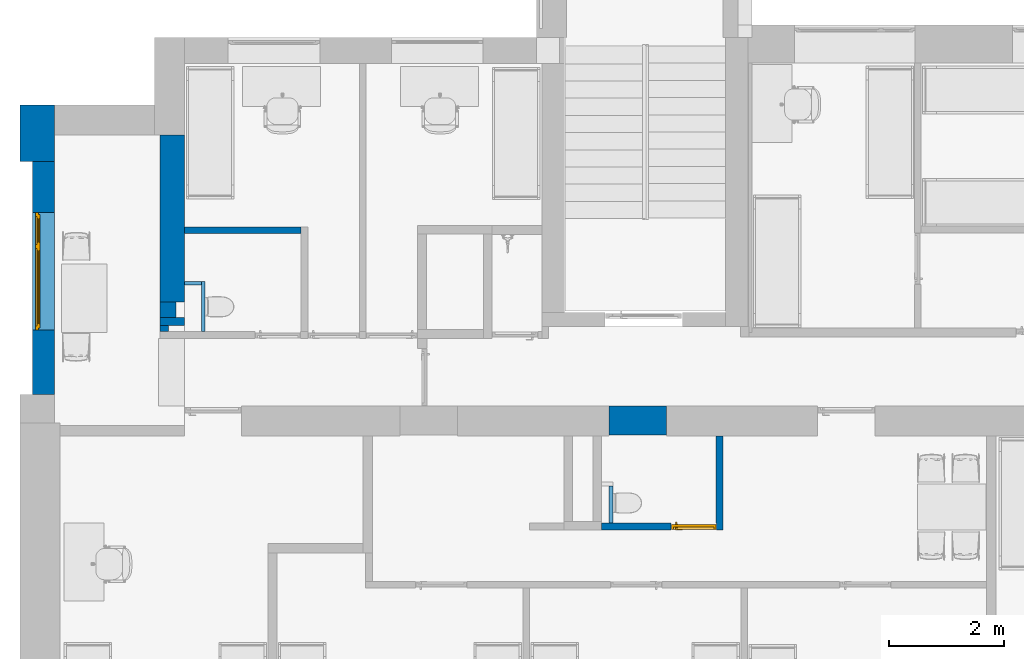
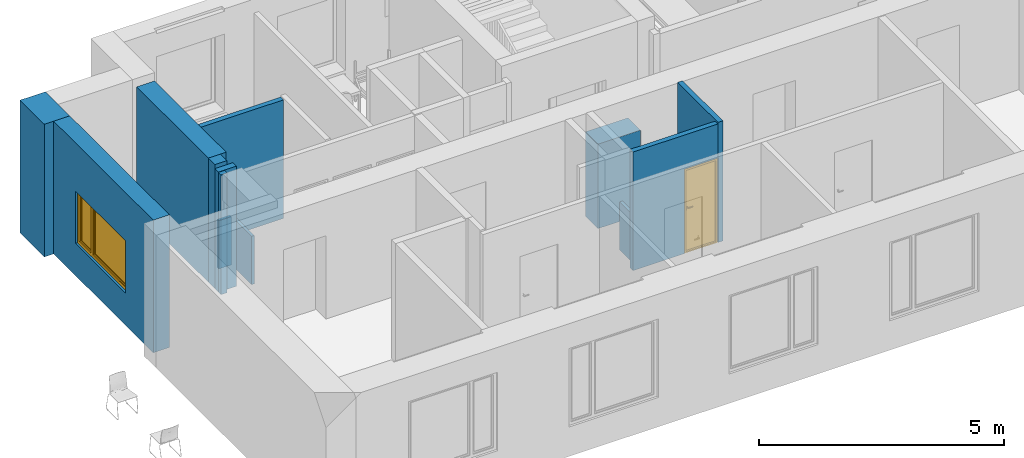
# One storey, part 4 of 48: 13 walls, 1 door, 1 window, 3 openings.
"""IFC2X3 building model written with IfcOpenShell, lengths in millimetres."""

from ifc_helpers import new_model, entity, si_unit, converted_unit, derived_unit, direction, frame, frame_2d, origin, place, context, subcontext, project, spatial, rectangle, extrude, faceted_brep, source, transform, mapped, material, material_list, layer, layer_set, layer_usage, type_object, type_shapes, element, fill, save


model = new_model("IFC2X3")

# Units and contexts
model_context = context("Model", 3, precision=0.01, world=origin(), true_north=direction((6.12303176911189e-17, 1.0)))
body_context = subcontext(model_context, "Body", "Model", "MODEL_VIEW")
ifc_project = project(units=[si_unit("LENGTHUNIT", "METRE", prefix="MILLI"), si_unit("AREAUNIT", "SQUARE_METRE"), si_unit("VOLUMEUNIT", "CUBIC_METRE"), converted_unit("PLANEANGLEUNIT", "DEGREE", entity("IfcRatioMeasure", 0.0174532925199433), si_unit("PLANEANGLEUNIT", "RADIAN"), dimensions=[0, 0, 0, 0, 0, 0, 0]), si_unit("MASSUNIT", "GRAM", prefix="KILO"), derived_unit("MASSDENSITYUNIT", [(si_unit("MASSUNIT", "GRAM", prefix="KILO"), 1), (si_unit("LENGTHUNIT", "METRE"), -3)]), si_unit("TIMEUNIT", "SECOND"), si_unit("FREQUENCYUNIT", "HERTZ"), si_unit("THERMODYNAMICTEMPERATUREUNIT", "DEGREE_CELSIUS"), derived_unit("THERMALTRANSMITTANCEUNIT", [(si_unit("MASSUNIT", "GRAM", prefix="KILO"), 1), (si_unit("THERMODYNAMICTEMPERATUREUNIT", "KELVIN"), -1), (si_unit("TIMEUNIT", "SECOND"), -3)]), derived_unit("VOLUMETRICFLOWRATEUNIT", [(si_unit("LENGTHUNIT", "METRE"), 3), (si_unit("TIMEUNIT", "SECOND"), -1)]), si_unit("ELECTRICCURRENTUNIT", "AMPERE"), si_unit("ELECTRICVOLTAGEUNIT", "VOLT"), si_unit("POWERUNIT", "WATT"), si_unit("FORCEUNIT", "NEWTON", prefix="KILO"), si_unit("ILLUMINANCEUNIT", "LUX"), si_unit("LUMINOUSFLUXUNIT", "LUMEN"), si_unit("LUMINOUSINTENSITYUNIT", "CANDELA"), derived_unit("USERDEFINED", [(si_unit("MASSUNIT", "GRAM", prefix="KILO"), -1), (si_unit("LENGTHUNIT", "METRE"), -2), (si_unit("TIMEUNIT", "SECOND"), 3), (si_unit("LUMINOUSFLUXUNIT", "LUMEN"), 1)]), derived_unit("LINEARVELOCITYUNIT", [(si_unit("LENGTHUNIT", "METRE"), 1), (si_unit("TIMEUNIT", "SECOND"), -1)]), si_unit("PRESSUREUNIT", "PASCAL"), derived_unit("USERDEFINED", [(si_unit("LENGTHUNIT", "METRE"), -2), (si_unit("MASSUNIT", "GRAM", prefix="KILO"), 1), (si_unit("TIMEUNIT", "SECOND"), -2)]), derived_unit("LINEARFORCEUNIT", [(si_unit("MASSUNIT", "GRAM", prefix="KILO"), 1), (si_unit("LENGTHUNIT", "METRE"), 1), (si_unit("TIMEUNIT", "SECOND"), -2), (si_unit("LENGTHUNIT", "METRE"), -1)]), derived_unit("PLANARFORCEUNIT", [(si_unit("MASSUNIT", "GRAM", prefix="KILO"), 1), (si_unit("LENGTHUNIT", "METRE"), 1), (si_unit("TIMEUNIT", "SECOND"), -2), (si_unit("LENGTHUNIT", "METRE"), -2)])], contexts=[model_context])

# Site, building, storey
site_placement = place(None, origin())
site = spatial("IfcSite", under=ifc_project, at=site_placement, Name="Default", CompositionType="ELEMENT")
building_placement = place(site_placement, origin())
building = spatial("IfcBuilding", under=site, at=building_placement, Name="SMA ARH", CompositionType="ELEMENT")
storey_placement = place(building_placement, frame((0.0, 0.0, 3300.0)))
storey = spatial("IfcBuildingStorey", under=building, at=storey_placement, Name="2 Korrus", CompositionType="ELEMENT", Elevation=3299.99999999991)

# Walls
ifc_material_1 = material(Name="_ol.olev sein")
ifc_layer_1 = layer(ifc_material_1, 420.0)
ifc_layer_set_1 = layer_set([ifc_layer_1], Name="Basic Wall:Generic - 420mm")
ifc_layer_usage_1 = layer_usage(ifc_layer_set_1, "AXIS2", "NEGATIVE", 210.0)
wall_type_1 = type_object("IfcWallType", Name="Basic Wall:Generic - 420mm", PredefinedType="STANDARD", material=ifc_layer_set_1)
wall_1_placement = place(storey_placement, frame((1955.0, 11250.0, 0.0), z_axis=(0.0, 0.0, 1.0), x_axis=(0.0, -1.0, 0.0)))
element("IfcWallStandardCase", 1, at=wall_1_placement, inside=storey, type_object=wall_type_1, material=ifc_layer_usage_1, Name="Basic Wall:Generic - 420mm", ObjectType="Basic Wall:Generic - 420mm", context=body_context, shape_type="SweptSolid", body=[
    extrude(rectangle(XDim=2919.99999999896, YDim=420.0, at=frame_2d((1459.99999999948, 5.6843418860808e-14), x_axis=(-1.0, 0.0))), origin(), (0.0, 0.0, 1.0), 3089.99999999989),
])
ifc_layer_usage_2 = layer_usage(ifc_layer_set_1, "AXIS2", "NEGATIVE", 210.0)
wall_2_placement = place(storey_placement, frame((1955.0, 8061.44692735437, 0.0), z_axis=(0.0, 0.0, 1.0), x_axis=(0.0, -1.0, 0.0)))
element("IfcWallStandardCase", 2, at=wall_2_placement, inside=storey, type_object=wall_type_1, material=ifc_layer_usage_2, Name="Basic Wall:Generic - 420mm", ObjectType="Basic Wall:Generic - 420mm", context=body_context, shape_type="SweptSolid", body=[
    extrude(rectangle(XDim=141.571936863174, YDim=420.0, at=frame_2d((70.7859684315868, -2.8421709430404e-14), x_axis=(-1.0, 0.0))), origin(), (0.0, 0.0, 1.0), 2989.99999999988),
])
ifc_layer_2 = layer(ifc_material_1, 280.0)
ifc_layer_set_2 = layer_set([ifc_layer_2], Name="Basic Wall:Generic - 280mm")
ifc_layer_usage_3 = layer_usage(ifc_layer_set_2, "AXIS2", "NEGATIVE", 140.0)
wall_type_2 = type_object("IfcWallType", Name="Basic Wall:Generic - 280mm", PredefinedType="STANDARD", material=ifc_layer_set_2)
wall_3_placement = place(storey_placement, frame((1885.0, 8330.0, 0.0), z_axis=(0.0, 0.0, 1.0), x_axis=(0.0, -1.0, 0.0)))
element("IfcWallStandardCase", 3, at=wall_3_placement, inside=storey, type_object=wall_type_2, material=ifc_layer_usage_3, Name="Basic Wall:Generic - 280mm", ObjectType="Basic Wall:Generic - 280mm", context=body_context, shape_type="SweptSolid", body=[
    extrude(rectangle(XDim=268.55307264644, YDim=280.0, at=frame_2d((134.27653632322, -4.2632564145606e-14), x_axis=(-1.0, 0.0))), origin(), (0.0, 0.0, 1.0), 3089.99999999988),
])
ifc_layer_3 = layer(ifc_material_1, 600.0)
ifc_layer_set_3 = layer_set([ifc_layer_3], Name="Basic Wall:Generic - 600mm")
ifc_layer_usage_4 = layer_usage(ifc_layer_set_3, "AXIS2", "NEGATIVE", 300.0)
wall_type_3 = type_object("IfcWallType", Name="Basic Wall:Generic - 600mm", PredefinedType="STANDARD", material=ifc_layer_set_3)
wall_4_placement = place(storey_placement, frame((-400.0, 10780.0, 0.0), z_axis=(0.0, 0.0, 1.0), x_axis=(0.0, 1.0, 0.0)))
element("IfcWallStandardCase", 4, at=wall_4_placement, inside=storey, type_object=wall_type_3, material=ifc_layer_usage_4, Name="Basic Wall:Generic - 600mm", ObjectType="Basic Wall:Generic - 600mm", context=body_context, shape_type="SweptSolid", body=[
    extrude(rectangle(XDim=990.000000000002, YDim=600.0, at=frame_2d((495.000000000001, 2.8421709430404e-14), x_axis=(-1.0, 0.0))), origin(), (0.0, 0.0, 1.0), 3299.99999999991),
])

# Wall, opening, window
ifc_layer_4 = layer(ifc_material_1, 380.0)
ifc_layer_set_4 = layer_set([ifc_layer_4], Name="Basic Wall:Generic - 380mm")
ifc_layer_usage_5 = layer_usage(ifc_layer_set_4, "AXIS2", "NEGATIVE", 190.0)
wall_type_4 = type_object("IfcWallType", Name="Basic Wall:Generic - 380mm", PredefinedType="STANDARD", material=ifc_layer_set_4)
wall_5_placement = place(storey_placement, frame((-290.0, 6720.0, 0.0), z_axis=(0.0, 0.0, 1.0), x_axis=(0.0, 1.0, 0.0)))
wall_5 = element("IfcWallStandardCase", 5, at=wall_5_placement, inside=storey, type_object=wall_type_4, material=ifc_layer_usage_5, Name="Basic Wall:Generic - 380mm", ObjectType="Basic Wall:Generic - 380mm", context=body_context, shape_type="SweptSolid", body=[
    extrude(rectangle(XDim=4060.0, YDim=380.0, at=frame_2d((2030.0, 0.0), x_axis=(-1.0, 0.0))), origin(), (0.0, 0.0, 1.0), 3299.99999999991),
])
opening_1_placement = place(wall_5_placement, frame((1125.0, -190.0, 800.0)))
opening_1 = element("IfcOpeningElement", 6, at=opening_1_placement, cuts=wall_5, Name="SMA_W2, 2-jaotus:A-00 - 2100x1300:1", ObjectType="Opening", context=body_context, shape_type="SweptSolid", body=[
    extrude(rectangle(XDim=1300.0, YDim=2050.0, at=frame_2d((650.0, 1025.0), x_axis=(1.0, 0.0))), frame((0.0, 0.0, 0.0), z_axis=(0.0, 1.0, 0.0), x_axis=(0.0, 0.0, 1.0)), (0.0, 0.0, 1.0), 380.0),
])
ifc_material_2 = material(Name="Glass")
ifc_material_3 = material(Name="Hall")
ifc_material_list_1 = material_list([ifc_material_2, ifc_material_3])
ifc_material_4 = material(Name="<Unnamed>")
ifc_material_list_2 = material_list([ifc_material_2, ifc_material_4, ifc_material_3, ifc_material_3, ifc_material_4])
window_style = type_object("IfcWindowStyle", Name="SMA_W2, 2-jaotus:A-00 - 2100x1300", ConstructionType="NOTDEFINED", OperationType="NOTDEFINED", ParameterTakesPrecedence=False, Sizeable=False, material=ifc_material_list_2)
shared_shape_1 = source(origin(), body_context, "Body", "Brep", [
    faceted_brep([(105.0, 270.0, 1195.0), (105.0, 270.0, 105.0), (1390.0, 270.0, 105.0), (1390.0, 270.0, 1195.0), (105.0, 290.0, 1195.0), (105.0, 290.0, 105.0), (1390.0, 290.0, 105.0), (1390.0, 290.0, 1195.0)], [[[0, 1, 2, 3]], [[1, 0, 4, 5]], [[2, 1, 5, 6]], [[3, 2, 6, 7]], [[4, 7, 6, 5]], [[0, 3, 7, 4]]]),
    faceted_brep([(1530.0, 270.0, 105.0), (1945.0, 270.0, 105.0), (1945.0, 270.0, 1195.0), (1530.0, 270.0, 1195.0), (1530.0, 290.0, 105.0), (1945.0, 290.0, 105.0), (1945.0, 290.0, 1195.0), (1530.0, 290.0, 1195.0)], [[[0, 1, 2, 3]], [[1, 0, 4, 5]], [[2, 1, 5, 6]], [[0, 3, 7, 4]], [[4, 7, 6, 5]], [[3, 2, 6, 7]]]),
    faceted_brep([(35.0, 255.0, 35.0), (1460.0, 255.0, 35.0), (1460.0, 255.0, 1265.0), (35.0, 255.0, 1265.0), (1390.0, 255.0, 1195.0), (1390.0, 255.0, 105.0), (105.0, 255.0, 105.0), (105.0, 255.0, 1195.0), (35.0, 305.0, 35.0), (1460.0, 305.0, 35.0), (1460.0, 305.0, 1265.0), (35.0, 305.0, 1265.0), (1390.0, 305.0, 1195.0), (1390.0, 305.0, 105.0), (105.0, 305.0, 105.0), (105.0, 305.0, 1195.0)], [[[0, 1, 2, 3], [4, 5, 6, 7]], [[1, 0, 8, 9]], [[2, 1, 9, 10]], [[0, 3, 11, 8]], [[5, 4, 12, 13]], [[6, 5, 13, 14]], [[7, 6, 14, 15]], [[8, 11, 10, 9], [12, 15, 14, 13]], [[3, 2, 10, 11]], [[4, 7, 15, 12]]]),
    faceted_brep([(1460.0, 255.0, 35.0), (2015.0, 255.0, 35.0), (2015.0, 255.0, 1265.0), (1460.0, 255.0, 1265.0), (1945.0, 255.0, 1195.0), (1945.0, 255.0, 105.0), (1530.0, 255.0, 105.0), (1530.0, 255.0, 1195.0), (1460.0, 305.0, 35.0), (2015.0, 305.0, 35.0), (2015.0, 305.0, 1265.0), (1460.0, 305.0, 1265.0), (1945.0, 305.0, 1195.0), (1945.0, 305.0, 105.0), (1530.0, 305.0, 105.0), (1530.0, 305.0, 1195.0)], [[[0, 1, 2, 3], [4, 5, 6, 7]], [[1, 0, 8, 9]], [[2, 1, 9, 10]], [[0, 3, 11, 8]], [[5, 4, 12, 13]], [[6, 5, 13, 14]], [[7, 6, 14, 15]], [[8, 11, 10, 9], [12, 15, 14, 13]], [[3, 2, 10, 11]], [[4, 7, 15, 12]]]),
    faceted_brep([(0.0, 280.0, 0.0), (2050.0, 280.0, 0.0), (2050.0, 280.0, 1300.0), (0.0, 280.0, 1300.0), (2015.0, 280.0, 35.0), (1460.0, 280.0, 35.0), (1460.0, 280.0, 1265.0), (2015.0, 280.0, 1265.0), (70.0, 280.0, 1230.0), (1425.0, 280.0, 1230.0), (1425.0, 280.0, 70.0), (70.0, 280.0, 70.0), (0.0, 330.0, 0.0), (2050.0, 330.0, 0.0), (2050.0, 330.0, 1300.0), (0.0, 330.0, 1300.0), (1425.0, 330.0, 1230.0), (1425.0, 330.0, 70.0), (70.0, 330.0, 70.0), (70.0, 330.0, 1230.0), (2015.0, 305.0, 35.0), (1460.0, 305.0, 35.0), (1460.0, 305.0, 1265.0), (2015.0, 305.0, 1265.0), (1495.0, 330.0, 1230.0), (1495.0, 330.0, 70.0), (1980.0, 330.0, 70.0), (1980.0, 330.0, 1230.0), (1495.0, 305.0, 1230.0), (1495.0, 305.0, 70.0), (1980.0, 305.0, 70.0), (1980.0, 305.0, 1230.0)], [[[0, 1, 2, 3], [4, 5, 6, 7], [8, 9, 10, 11]], [[1, 0, 12, 13]], [[2, 1, 13, 14]], [[0, 3, 15, 12]], [[10, 9, 16, 17]], [[11, 10, 17, 18]], [[8, 11, 18, 19]], [[20, 21, 5, 4]], [[21, 22, 6, 5]], [[23, 20, 4, 7]], [[12, 15, 14, 13], [19, 18, 17, 16], [24, 25, 26, 27]], [[25, 24, 28, 29]], [[26, 25, 29, 30]], [[27, 26, 30, 31]], [[21, 20, 23, 22], [28, 31, 30, 29]], [[3, 2, 14, 15]], [[24, 27, 31, 28]], [[9, 8, 19, 16]], [[22, 23, 7, 6]]]),
])
type_shapes(window_style, [shared_shape_1])
window_placement = place(opening_1_placement, origin())
window = element("IfcWindow", 7, at=window_placement, inside=storey, type_object=window_style, material=ifc_material_list_1, Name="SMA_W2, 2-jaotus:A-00 - 2100x1300", ObjectType="SMA_W2, 2-jaotus:A-00 - 2100x1300", OverallHeight=1300.0, OverallWidth=2050.0, context=body_context, shape_type="MappedRepresentation", body=[
    mapped(shared_shape_1, transform((0.0, 0.0, 0.0), scale=1.0)),
])
fill(opening_1, window)

# Wall
ifc_material_5 = material(Name="EST. Ehitusplaat. Kipsplaat")
ifc_layer_5 = layer(ifc_material_5, 12.5)
ifc_layer_6 = layer(ifc_material_5, 12.5)
ifc_material_6 = material(Name="EST. Soojustus. Mineraalvill. Default")
ifc_layer_7 = layer(ifc_material_6, 66.0)
ifc_layer_8 = layer(ifc_material_5, 12.5)
ifc_layer_9 = layer(ifc_material_5, 12.5)
ifc_layer_set_5 = layer_set([ifc_layer_5, ifc_layer_6, ifc_layer_7, ifc_layer_8, ifc_layer_9], Name="Basic Wall:SS-05_Kips, 66mm metallkarkass")
ifc_layer_usage_6 = layer_usage(ifc_layer_set_5, "AXIS2", "NEGATIVE", 58.0)
wall_type_5 = type_object("IfcWallType", Name="Basic Wall:SS-05_Kips, 66mm metallkarkass", PredefinedType="STANDARD", material=ifc_layer_set_5)
wall_6_placement = place(storey_placement, frame((2165.0, 9585.50000000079, 0.0)))
element("IfcWallStandardCase", 8, at=wall_6_placement, inside=storey, type_object=wall_type_5, material=ifc_layer_usage_6, Name="Basic Wall:SS-05_Kips, 66mm metallkarkass", ObjectType="Basic Wall:SS-05_Kips, 66mm metallkarkass", context=body_context, shape_type="SweptSolid", body=[
    extrude(rectangle(XDim=2038.32130046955, YDim=116.0, at=frame_2d((1019.16065023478, -6.3948846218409e-14), x_axis=(-1.0, 0.0))), origin(), (0.0, 0.0, 1.0), 2949.99999999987),
])

# Wall, opening, door
ifc_layer_usage_7 = layer_usage(ifc_layer_set_5, "AXIS2", "NEGATIVE", 58.0)
wall_7_placement = place(storey_placement, frame((9440.0, 4418.0, 0.0)))
wall_7 = element("IfcWallStandardCase", 9, at=wall_7_placement, inside=storey, type_object=wall_type_5, material=ifc_layer_usage_7, Name="Basic Wall:SS-05_Kips, 66mm metallkarkass", ObjectType="Basic Wall:SS-05_Kips, 66mm metallkarkass", context=body_context, shape_type="SweptSolid", body=[
    extrude(rectangle(XDim=2002.00000000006, YDim=116.0, at=frame_2d((1001.00000000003, 9.2370555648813e-14), x_axis=(-1.0, 0.0))), origin(), (0.0, 0.0, 1.0), 2949.99999999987),
])
opening_2_placement = place(wall_7_placement, frame((1210.0, -58.0, 0.0)))
opening_2 = element("IfcOpeningElement", 10, at=opening_2_placement, cuts=wall_7, Name="SMA_D01, 1-poolne:SU-P-06 - 800x2100 DUŠŠ:1", ObjectType="Opening", context=body_context, shape_type="SweptSolid", body=[
    extrude(rectangle(XDim=2099.99999999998, YDim=800.0, at=frame_2d((1049.99999999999, 400.0), x_axis=(1.0, 0.0))), frame((0.0, 0.0, 0.0), z_axis=(0.0, 1.0, 0.0), x_axis=(0.0, 0.0, 1.0)), (0.0, 0.0, 1.0), 116.0),
])
ifc_material_7 = material(Name="EST. Metall. Alumiinium. Värvitud. RAL7023 (Concrete grey)")
ifc_material_8 = material(Name="EST. Klaas. 3x. Default")
ifc_material_list_3 = material_list([ifc_material_7, ifc_material_8, ifc_material_4, ifc_material_4, ifc_material_7, ifc_material_4, ifc_material_7])
door_style = type_object("IfcDoorStyle", Name="SMA_D01, 1-poolne:SU-P-06 - 800x2100 DUŠŠ", ConstructionType="NOTDEFINED", OperationType="NOTDEFINED", ParameterTakesPrecedence=False, Sizeable=False, material=ifc_material_list_3)
shared_shape_2 = source(origin(), body_context, "Body", "Brep", [
    faceted_brep([(110.0, 6.0, 1112.5), (110.0, 44.0, 1112.5), (85.0, 44.0, 1112.5), (85.0, 1.0, 1112.5), (205.0, 1.0, 1112.5), (205.0, 6.0, 1112.5), (110.0, 6.0, 1087.5), (205.0, 6.0, 1087.5), (205.0, 1.0, 1087.5), (85.0, 1.0, 1087.5), (85.0, 44.0, 1087.5), (110.0, 44.0, 1087.5)], [[[0, 1, 2, 3, 4, 5]], [[6, 7, 8, 9, 10, 11]], [[1, 0, 6, 11]], [[2, 1, 11, 10]], [[3, 2, 10, 9]], [[4, 3, 9, 8]], [[5, 4, 8, 7]], [[0, 5, 7, 6]]]),
    faceted_brep([(122.5, 44.0, 1137.5), (122.5, 46.0, 1137.5), (72.4999999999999, 46.0, 1137.5), (72.4999999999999, 44.0, 1137.5), (122.5, 44.0, 1017.5), (72.4999999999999, 44.0, 1017.5), (72.4999999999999, 46.0, 1017.5), (122.5, 46.0, 1017.5)], [[[0, 1, 2, 3]], [[4, 5, 6, 7]], [[1, 0, 4, 7]], [[2, 1, 7, 6]], [[3, 2, 6, 5]], [[0, 3, 5, 4]]]),
    faceted_brep([(110.0, 136.0, 1112.5), (205.0, 136.0, 1112.5), (205.0, 141.0, 1112.5), (85.0, 141.0, 1112.5), (85.0, 98.0, 1112.5), (110.0, 98.0, 1112.5), (110.0, 136.0, 1087.5), (110.0, 98.0, 1087.5), (85.0, 98.0, 1087.5), (85.0, 141.0, 1087.5), (205.0, 141.0, 1087.5), (205.0, 136.0, 1087.5)], [[[0, 1, 2, 3, 4, 5]], [[6, 7, 8, 9, 10, 11]], [[5, 7, 6, 0]], [[4, 8, 7, 5]], [[3, 9, 8, 4]], [[2, 10, 9, 3]], [[1, 11, 10, 2]], [[0, 6, 11, 1]]]),
    faceted_brep([(122.5, 98.0, 1137.5), (72.4999999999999, 98.0, 1137.5), (72.4999999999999, 96.0, 1137.5), (122.5, 96.0, 1137.5), (122.5, 98.0, 1017.5), (122.5, 96.0, 1017.5), (72.4999999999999, 96.0, 1017.5), (72.4999999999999, 98.0, 1017.5)], [[[0, 1, 2, 3]], [[4, 5, 6, 7]], [[3, 5, 4, 0]], [[2, 6, 5, 3]], [[1, 7, 6, 2]], [[0, 4, 7, 1]]]),
    faceted_brep([(750.0, 6.0, 30.0), (750.0, 6.0, 0.0), (750.0, 46.0, 0.0), (750.0, 46.0, 20.0), (750.0, 46.0, 30.0), (50.0, 6.0, 30.0), (50.0, 46.0, 30.0), (50.0, 46.0, 20.0), (50.0, 46.0, 0.0), (50.0, 6.0, 0.0), (35.0, 46.0, 0.0), (35.0, 96.0, 0.0), (765.0, 96.0, 0.0), (765.0, 46.0, 0.0), (765.0, 96.0, 20.0), (765.0, 46.0, 20.0), (35.0, 96.0, 20.0), (35.0, 46.0, 20.0)], [[[0, 1, 2, 3, 4]], [[5, 6, 7, 8, 9]], [[1, 0, 5, 9]], [[2, 1, 9, 8, 10, 11, 12, 13]], [[6, 4, 3, 7]], [[0, 4, 6, 5]], [[14, 15, 13, 12]], [[16, 11, 10, 17]], [[15, 14, 16, 17, 7, 3]], [[13, 15, 3, 2]], [[14, 12, 11, 16]], [[17, 10, 8, 7]]]),
    faceted_brep([(790.0, 6.0, 0.0), (750.0, 6.0, 0.0), (750.0, 46.0, 0.0), (765.0, 46.0, 0.0), (765.0, 96.0, 0.0), (790.0, 96.0, 0.0), (790.0, 6.0, 2090.0), (10.0, 6.0, 2090.0), (10.0, 6.0, 0.0), (50.0, 6.0, 0.0), (50.0, 6.0, 2050.0), (750.0, 6.0, 2050.0), (750.0, 46.0, 2050.0), (50.0, 46.0, 2050.0), (50.0, 46.0, 0.0), (35.0, 46.0, 0.0), (35.0, 46.0, 2065.0), (765.0, 46.0, 2065.0), (765.0, 96.0, 2065.0), (35.0, 96.0, 2065.0), (35.0, 96.0, 0.0), (10.0, 96.0, 0.0), (10.0, 96.0, 2090.0), (790.0, 96.0, 2090.0)], [[[0, 1, 2, 3, 4, 5]], [[1, 0, 6, 7, 8, 9, 10, 11]], [[2, 1, 11, 12]], [[3, 2, 12, 13, 14, 15, 16, 17]], [[4, 3, 17, 18]], [[5, 4, 18, 19, 20, 21, 22, 23]], [[0, 5, 23, 6]], [[8, 7, 22, 21]], [[9, 8, 21, 20, 15, 14]], [[10, 9, 14, 13]], [[16, 15, 20, 19]], [[11, 10, 13, 12]], [[17, 16, 19, 18]], [[7, 6, 23, 22]]]),
    faceted_brep([(35.0, 46.0, 2065.0), (35.0, 46.0, 20.0), (765.0, 46.0, 20.0), (765.0, 46.0, 2065.0), (35.0, 96.0, 2065.0), (765.0, 96.0, 2065.0), (765.0, 96.0, 20.0), (35.0, 96.0, 20.0)], [[[0, 1, 2, 3]], [[4, 5, 6, 7]], [[1, 0, 4, 7]], [[2, 1, 7, 6]], [[3, 2, 6, 5]], [[0, 3, 5, 4]]]),
])
type_shapes(door_style, [shared_shape_2])
door_placement = place(opening_2_placement, origin())
door = element("IfcDoor", 11, at=door_placement, inside=storey, type_object=door_style, material=ifc_material_7, Name="SMA_D01, 1-poolne:SU-P-06 - 800x2100 DUŠŠ", ObjectType="SMA_D01, 1-poolne:SU-P-06 - 800x2100 DUŠŠ", OverallHeight=2099.99999999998, OverallWidth=800.0, context=body_context, shape_type="MappedRepresentation", body=[
    mapped(shared_shape_2, transform((0.0, 0.0, 0.0), scale=1.0)),
])
fill(opening_2, door)

# Wall, opening
ifc_layer_usage_8 = layer_usage(ifc_layer_set_5, "AXIS2", "NEGATIVE", 58.0)
wall_8_placement = place(storey_placement, frame((11500.0, 6000.0, 0.0), z_axis=(0.0, 0.0, 1.0), x_axis=(0.0, -1.0, 0.0)))
wall_8 = element("IfcWallStandardCase", 12, at=wall_8_placement, inside=storey, type_object=wall_type_5, material=ifc_layer_usage_8, Name="Basic Wall:SS-05_Kips, 66mm metallkarkass", ObjectType="Basic Wall:SS-05_Kips, 66mm metallkarkass", context=body_context, shape_type="SweptSolid", body=[
    extrude(rectangle(XDim=1640.00000000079, YDim=116.0, at=frame_2d((820.000000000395, 3.5527136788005e-14), x_axis=(-1.0, 0.0))), origin(), (0.0, 0.0, 1.0), 2989.99999999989),
])
opening_3_placement = place(wall_8_placement, origin())
element("IfcOpeningElement", 13, at=opening_3_placement, cuts=wall_8, Name="Basic Wall:SS-05_Kips, 66mm metallkarkass", ObjectType="Opening", context=body_context, shape_type="SweptSolid", body=[
    extrude(rectangle(XDim=2099.99999999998, YDim=116.0, at=frame_2d((2.70006239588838e-13, 0.0), x_axis=(0.0, 1.0))), frame((1582.0, -850.0, 1050.0), z_axis=(0.0, 1.0, 0.0), x_axis=(-1.0, 0.0, 0.0)), (0.0, 0.0, 1.0), 800.0),
])

# Walls
ifc_material_9 = material(Name="EST. Põrand. Plaatkate")
ifc_layer_10 = layer(ifc_material_9, 10.0)
ifc_layer_11 = layer(ifc_material_5, 12.5)
ifc_material_10 = material(Name="EST. Õhkvahe. Roov. Kipsplaadi alusroov. Vertikaalne")
ifc_layer_12 = layer(ifc_material_10, 42.0)
ifc_layer_set_6 = layer_set([ifc_layer_10, ifc_layer_11, ifc_layer_12], Name="Basic Wall:SS-04 - loputuskast")
ifc_layer_usage_9 = layer_usage(ifc_layer_set_6, "AXIS2", "POSITIVE", -32.25)
wall_type_6 = type_object("IfcWallType", Name="Basic Wall:SS-04 - loputuskast", PredefinedType="STANDARD", material=ifc_layer_set_6)
wall_9_placement = place(storey_placement, frame((9607.75000000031, 4476.0, 0.0), z_axis=(0.0, 0.0, 1.0), x_axis=(0.0, 1.0, 0.0)))
element("IfcWallStandardCase", 14, at=wall_9_placement, inside=storey, type_object=wall_type_6, material=ifc_layer_usage_9, Name="Basic Wall:SS-04 - loputuskast", ObjectType="Basic Wall:SS-04 - loputuskast", context=body_context, shape_type="SweptSolid", body=[
    extrude(rectangle(XDim=652.500000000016, YDim=64.5000000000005, at=frame_2d((326.250000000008, 0.0), x_axis=(-1.0, 0.0))), origin(), (0.0, 0.0, 1.0), 1200.0),
])
ifc_layer_usage_10 = layer_usage(ifc_layer_set_6, "AXIS2", "POSITIVE", -32.25)
wall_10_placement = place(storey_placement, frame((2165.0, 8662.75000000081, 0.0)))
element("IfcWallStandardCase", 15, at=wall_10_placement, inside=storey, type_object=wall_type_6, material=ifc_layer_usage_10, Name="Basic Wall:SS-04 - loputuskast", ObjectType="Basic Wall:SS-04 - loputuskast", context=body_context, shape_type="SweptSolid", body=[
    extrude(rectangle(XDim=299.999999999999, YDim=64.5000000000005, at=frame_2d((150.0, -3.09086090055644e-13), x_axis=(-1.0, 0.0))), origin(), (0.0, 0.0, 1.0), 1200.0),
])
ifc_layer_usage_11 = layer_usage(ifc_layer_set_6, "AXIS2", "POSITIVE", -32.25)
wall_11_placement = place(storey_placement, frame((2497.25000000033, 7816.0, 0.0), z_axis=(0.0, 0.0, 1.0), x_axis=(0.0, 1.0, 0.0)))
element("IfcWallStandardCase", 16, at=wall_11_placement, inside=storey, type_object=wall_type_6, material=ifc_layer_usage_11, Name="Basic Wall:SS-04 - loputuskast", ObjectType="Basic Wall:SS-04 - loputuskast", context=body_context, shape_type="SweptSolid", body=[
    extrude(rectangle(XDim=879.000000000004, YDim=64.5000000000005, at=frame_2d((439.500000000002, -2.8421709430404e-14), x_axis=(-1.0, 0.0))), origin(), (0.0, 0.0, 1.0), 1200.0),
])
ifc_material_11 = material(Name="EST. Müüritis. Väikeplokk. Kergkruusplokk")
ifc_layer_13 = layer(ifc_material_11, 510.0)
ifc_layer_set_7 = layer_set([ifc_layer_13], Name="Basic Wall:SS-03_Fibo 510mm kinnilaotav ava")
ifc_layer_usage_12 = layer_usage(ifc_layer_set_7, "AXIS2", "NEGATIVE", 255.0)
wall_type_7 = type_object("IfcWallType", Name="Basic Wall:SS-03_Fibo 510mm kinnilaotav ava", PredefinedType="STANDARD", material=ifc_layer_set_7)
wall_12_placement = place(storey_placement, frame((9575.0, 6265.0, 0.0)))
element("IfcWallStandardCase", 17, at=wall_12_placement, inside=storey, type_object=wall_type_7, material=ifc_layer_usage_12, Name="Basic Wall:SS-03_Fibo 510mm kinnilaotav ava", ObjectType="Basic Wall:SS-03_Fibo 510mm kinnilaotav ava", context=body_context, shape_type="SweptSolid", body=[
    extrude(rectangle(XDim=999.999999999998, YDim=510.000000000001, at=frame_2d((499.999999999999, 0.0), x_axis=(-1.0, 0.0))), origin(), (0.0, 0.0, 1.0), 2099.99999999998),
])
ifc_layer_14 = layer(ifc_material_5, 12.5)
ifc_layer_15 = layer(ifc_material_5, 12.5)
ifc_layer_16 = layer(ifc_material_10, 95.0)
ifc_layer_17 = layer(ifc_material_5, 12.5)
ifc_layer_18 = layer(ifc_material_5, 12.5)
ifc_layer_set_8 = layer_set([ifc_layer_14, ifc_layer_15, ifc_layer_16, ifc_layer_17, ifc_layer_18], Name="Basic Wall:SS-04_Kips, 95mm metallkarkass")
ifc_layer_usage_13 = layer_usage(ifc_layer_set_8, "AXIS2", "NEGATIVE", 72.5)
wall_type_8 = type_object("IfcWallType", Name="Basic Wall:SS-04_Kips, 95mm metallkarkass", PredefinedType="STANDARD", material=ifc_layer_set_8)
wall_13_placement = place(storey_placement, frame((1817.50000000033, 7919.8749904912, 0.0), z_axis=(0.0, 0.0, 1.0), x_axis=(0.0, -1.0, 0.0)))
element("IfcWallStandardCase", 18, at=wall_13_placement, inside=storey, type_object=wall_type_8, material=ifc_layer_usage_13, Name="Basic Wall:SS-04_Kips, 95mm metallkarkass", ObjectType="Basic Wall:SS-04_Kips, 95mm metallkarkass", context=body_context, shape_type="SweptSolid", body=[
    extrude(rectangle(XDim=103.874990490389, YDim=145.0, at=frame_2d((51.9374952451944, 3.5527136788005e-14), x_axis=(-1.0, 0.0))), origin(), (0.0, 0.0, 1.0), 2979.99999999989),
])

save(model, "model.ifc")
